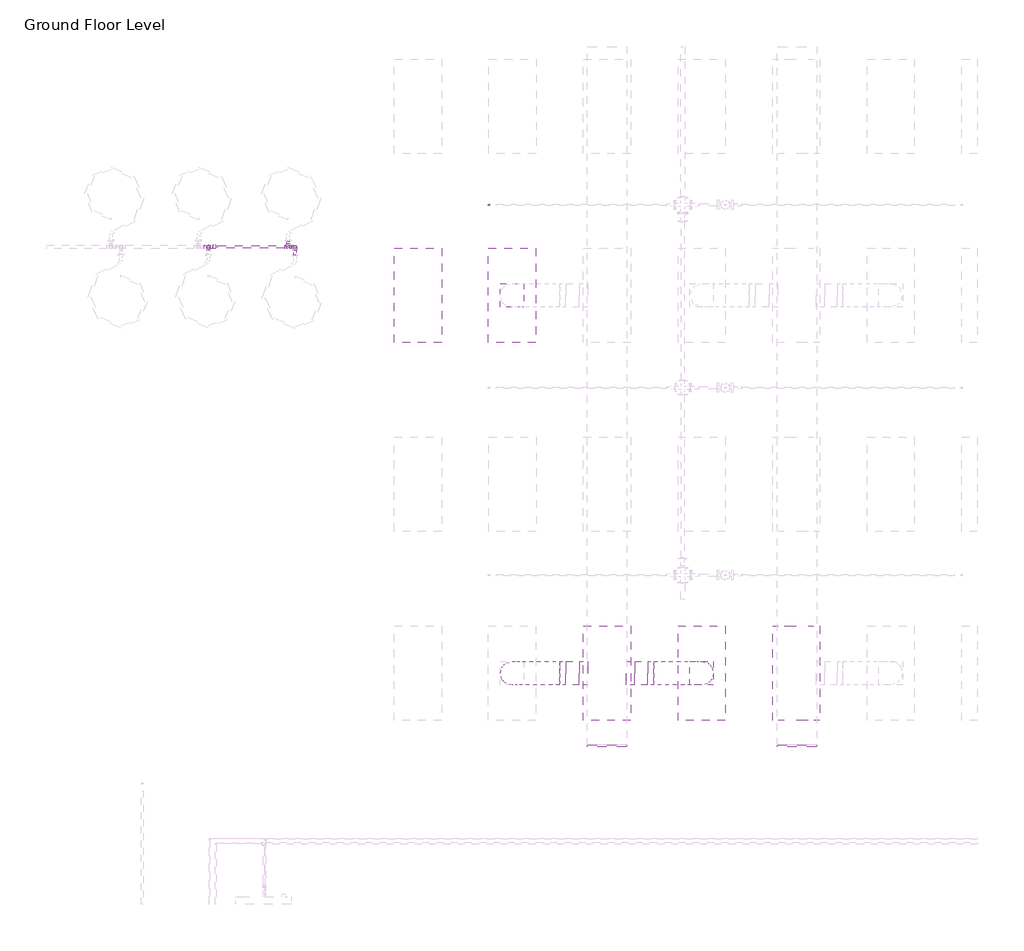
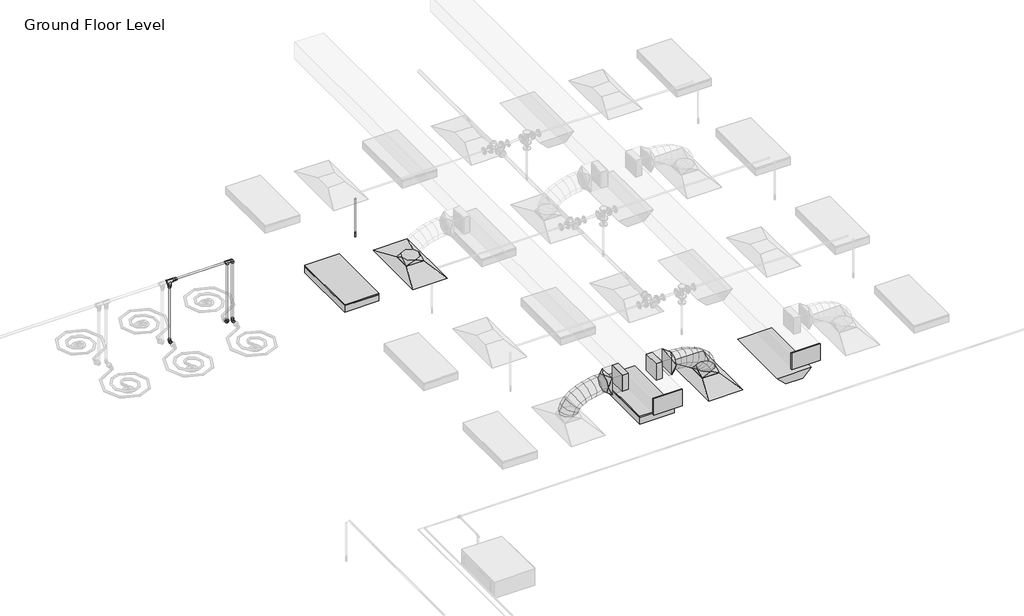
# One storey, part 44 of 74: 8 duct fittings, 8 pipe fittings, 8 pipe segments, 4 duct segments, 3 light fixtures, 2 air terminals, 1 fire suppression terminal.
"""IFC4 building model written with IfcOpenShell, lengths in millimetres."""

from ifc_helpers import new_model, si_unit, point, frame, frame_2d, origin, place, context, project, spatial, polyline, circle_curve, ellipse_curve, trimmed, segment, composite_curve, outline, extrude, transform, mapped, element, save
from ifc_brep_helpers import plane_surface, cylinder_surface, advanced_brep
from components import m_return_diffuser_1200x600_1200_x_600_face_300_x_300_d1983ef6, m_rectangular_endcap_standard_72d4d00d, m_rectangular_takeoff_standard_cb0ccb98, m_rectangular_takeoff_standard_2be5eba1, m_rectangular_to_round_transition_angle_45_degree_641efff0, m_sprinkler_dry_pendent_hosted_15_mm_dry_pendent_9bda8e11, m_emergency_recessed_lighting_fixture_600x1200_277_5b10b25d, m_troffer_light_parabolic_rectangular1_0600x1200mm_4_lamp_86473d4a, standard_517a5a8d, standard_72b35c3b, standard_08ff6011, standard_d0d0b892

model = new_model("IFC4")

# Units and contexts
model_context = context("Model", 3, world=origin())
ifc_project = project(units=[si_unit("LENGTHUNIT", "METRE", prefix="MILLI")], contexts=[model_context])

# Site, building, storey
site = spatial("IfcSite", under=ifc_project)
building = spatial("IfcBuilding", under=site)
storey = spatial("IfcBuildingStorey", under=building, Name="Ground Floor Level", Elevation=900.0)

# Air terminals
placement = place(None, origin())
m_return_diffuser_1200x600_1200_x_600_face_300_x_300_shape = m_return_diffuser_1200x600_1200_x_600_face_300_x_300_d1983ef6(model_context)
element("IfcAirTerminal", 1, ObjectType="M_Supply Diffuser 1200x600 : 1200 x 600 Face 300 x 300 Connection", at=placement, inside=storey, context=model_context, shape_type="MappedRepresentation", body=[
    mapped(m_return_diffuser_1200x600_1200_x_600_face_300_x_300_shape, transform((-8142.6846929, 6435.2153534, 3650.0), x_axis=(0.0, 1.0, 0.0), y_axis=(-1.0, 0.0, 0.0), z_axis=(0.0, 0.0, 1.0))),
])
element("IfcAirTerminal", 2, ObjectType="M_Supply Diffuser 1200x600 : 1200 x 600 Face 300 x 300 Connection", at=placement, inside=storey, context=model_context, shape_type="MappedRepresentation", body=[
    mapped(m_return_diffuser_1200x600_1200_x_600_face_300_x_300_shape, transform((-5737.2327605, 1635.2153534, 3650.0), x_axis=(0.0, 1.0, 0.0), y_axis=(-1.0, 0.0, 0.0), z_axis=(0.0, 0.0, 1.0))),
])

# Duct fittings
m_rectangular_endcap_standard_shape = m_rectangular_endcap_standard_72d4d00d(model_context)
element("IfcDuctFitting", 3, ObjectType="M_Rectangular Endcap : Standard", at=placement, inside=storey, context=model_context, shape_type="MappedRepresentation", body=[
    mapped(m_rectangular_endcap_standard_shape, transform((-4528.6910789, 725.2312455, 4150.0403557), x_axis=(0.0, -0.999999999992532, 3.864729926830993e-06), y_axis=(1.0, 0.0, 0.0), z_axis=(0.0, 3.864729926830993e-06, 0.999999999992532))),
])
element("IfcDuctFitting", 4, ObjectType="M_Rectangular Endcap : Standard", at=placement, inside=storey, context=model_context, shape_type="MappedRepresentation", body=[
    mapped(m_rectangular_endcap_standard_shape, transform((-6939.6910789, 725.2153534, 4150.0), x_axis=(0.0, -1.0, 0.0), y_axis=(1.0, 0.0, 0.0), z_axis=(0.0, 0.0, 1.0))),
])
m_rectangular_takeoff_standard_shape = m_rectangular_takeoff_standard_cb0ccb98(model_context)
element("IfcDuctFitting", 5, ObjectType="M_Rectangular Takeoff : Standard", at=placement, inside=storey, context=model_context, shape_type="MappedRepresentation", body=[
    mapped(m_rectangular_takeoff_standard_shape, transform((-6689.6910789, 1635.2153534, 4150.0), x_axis=(1.0, 0.0, 0.0), y_axis=(0.0, -1.0, 0.0), z_axis=(0.0, 0.0, -1.0))),
])
m_rectangular_takeoff_standard_2_shape = m_rectangular_takeoff_standard_2be5eba1(model_context)
element("IfcDuctFitting", 6, ObjectType="M_Rectangular Takeoff : Standard", at=placement, inside=storey, context=model_context, shape_type="MappedRepresentation", body=[
    mapped(m_rectangular_takeoff_standard_2_shape, transform((-7189.6910789, 1635.2153534, 4150.0), x_axis=(-1.0, 0.0, 0.0), y_axis=(0.0, 1.0, 0.0), z_axis=(0.0, 0.0, -1.0))),
])
m_rectangular_to_round_transition_angle_45_degree_shape = m_rectangular_to_round_transition_angle_45_degree_641efff0(model_context)
element("IfcDuctFitting", 7, ObjectType="M_Rectangular to Round Transition - Angle : 45 Degree", at=placement, inside=storey, context=model_context, shape_type="MappedRepresentation", body=[
    mapped(m_rectangular_to_round_transition_angle_45_degree_shape, transform((-8142.6846929, 6435.2153534, 3751.6), x_axis=(0.0, 0.0, 1.0), y_axis=(-1.0, 0.0, 0.0), z_axis=(0.0, -1.0, 0.0))),
])
element("IfcDuctFitting", 8, ObjectType="M_Rectangular to Round Transition - Angle : 45 Degree", at=placement, inside=storey, context=model_context, shape_type="MappedRepresentation", body=[
    mapped(m_rectangular_to_round_transition_angle_45_degree_shape, transform((-7461.2487616, 1635.2153534, 4150.0), x_axis=(-1.0, 0.0, 0.0), y_axis=(0.0, -1.0, 0.0), z_axis=(0.0, 0.0, 1.0))),
])
element("IfcDuctFitting", 9, ObjectType="M_Rectangular to Round Transition - Angle : 45 Degree", at=placement, inside=storey, context=model_context, shape_type="MappedRepresentation", body=[
    mapped(m_rectangular_to_round_transition_angle_45_degree_shape, transform((-5737.2327605, 1635.2153534, 3751.6), x_axis=(0.0, 0.0, 1.0), y_axis=(-1.0, 0.0, 0.0), z_axis=(0.0, -1.0, 0.0))),
])
element("IfcDuctFitting", 10, ObjectType="M_Rectangular to Round Transition - Angle : 45 Degree", at=placement, inside=storey, context=model_context, shape_type="MappedRepresentation", body=[
    mapped(m_rectangular_to_round_transition_angle_45_degree_shape, transform((-6418.6686918, 1635.2153534, 4150.0), x_axis=(1.0, 0.0, 0.0), y_axis=(0.0, 1.0, 0.0), z_axis=(0.0, 0.0, 1.0))),
])

# Duct segments
element("IfcDuctSegment", 11, ObjectType="Flex - Round", at=placement, inside=storey, context=model_context, shape_type="AdvancedBrep", body=[
    advanced_brep(
    [(-7992.6846929, 1635.2153534, 3826.6), (-8142.6846929, 1485.2153534, 3826.6), (-8292.6846929, 1635.2153534, 3826.6), (-8142.6846929, 1785.2153534, 3826.6), (-7992.6846929, 1635.2153534, 3832.4838104), (-8142.6846929, 1485.2153534, 3857.3049615), (-8292.6846929, 1635.2153534, 3882.1261126), (-8142.6846929, 1785.2153534, 3857.3049615), (-7990.555208, 1635.2153534, 3838.7421096), (-8126.0232883, 1485.2153534, 3906.2708192), (-8261.4913687, 1635.2153534, 3973.7995287), (-8126.0232883, 1785.2153534, 3906.2708192), (-7968.5331802, 1635.2153534, 3871.1472855), (-8080.1452707, 1485.2153534, 3973.7798261), (-8191.7573612, 1635.2153534, 4076.4123668), (-8080.1452707, 1785.2153534, 3973.7798261), (-7928.5904556, 1635.2153534, 3903.4915826), (-8011.2099341, 1485.2153534, 4029.6013814), (-8093.8294126, 1635.2153534, 4155.7111802), (-8011.2099341, 1785.2153534, 4029.6013814), (-7865.6682729, 1635.2153534, 3936.1928758), (-7925.3765727, 1485.2153534, 4074.2098454), (-7985.0848725, 1635.2153534, 4212.226815), (-7925.3765727, 1785.2153534, 4074.2098454), (-7786.815881, 1635.2153534, 3963.8479616), (-7828.8044806, 1485.2153534, 4108.0795788), (-7870.7930803, 1635.2153534, 4252.311196), (-7828.8044806, 1785.2153534, 4108.0795788), (-7700.2438983, 1635.2153534, 3984.0509494), (-7727.652952, 1485.2153534, 4131.684942), (-7755.0620057, 1635.2153534, 4279.3189347), (-7727.652952, 1785.2153534, 4131.684942), (-7613.759715, 1635.2153534, 3996.0504424), (-7628.081281, 1485.2153534, 4145.5002956), (-7642.4028469, 1635.2153534, 4294.9501488), (-7628.081281, 1785.2153534, 4145.5002956), (-7539.5984134, 1635.2153534, 4000.0), (-7543.5898089, 1485.2153534, 4150.0), (-7547.5812043, 1635.2153534, 4300.0), (-7543.5898089, 1785.2153534, 4150.0), (-7536.2487616, 1635.2153534, 4000.0), (-7536.2487616, 1785.2153534, 4150.0), (-7536.2487616, 1635.2153534, 4300.0), (-7536.2487616, 1485.2153534, 4150.0)],
    [
        (0, 1, circle_curve(frame((-8142.6846929, 1635.2153534, 3826.6), z_axis=(0.0, 0.0, -1.0), x_axis=(1.0, 0.0, 0.0)), 150.0)),
        (1, 2, circle_curve(frame((-8142.6846929, 1635.2153534, 3826.6), z_axis=(0.0, 0.0, -1.0), x_axis=(1.0, 0.0, 0.0)), 150.0)),
        (2, 3, circle_curve(frame((-8142.6846929, 1635.2153534, 3826.6), z_axis=(0.0, 0.0, -1.0), x_axis=(1.0, 0.0, 0.0)), 150.0)),
        (3, 0, circle_curve(frame((-8142.6846929, 1635.2153534, 3826.6), z_axis=(0.0, 0.0, -1.0), x_axis=(1.0, 0.0, 0.0)), 150.0)),
        (0, 4),
        (4, 5, ellipse_curve(frame((-8142.6846929, 1635.2153534, 3857.3049615), z_axis=(-0.1632543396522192, 0.0, -0.9865840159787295), x_axis=(0.9865840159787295, 0.0, -0.16325433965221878)), 152.039763, 150.0)),
        (5, 1),
        (5, 6, ellipse_curve(frame((-8142.6846929, 1635.2153534, 3857.3049615), z_axis=(-0.1632543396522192, 0.0, -0.9865840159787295), x_axis=(0.9865840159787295, 0.0, -0.16325433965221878)), 152.039763, 150.0)),
        (6, 2),
        (6, 7, ellipse_curve(frame((-8142.6846929, 1635.2153534, 3857.3049615), z_axis=(-0.1632543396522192, 0.0, -0.9865840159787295), x_axis=(0.9865840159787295, 0.0, -0.16325433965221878)), 152.039763, 150.0)),
        (7, 3),
        (7, 4, ellipse_curve(frame((-8142.6846929, 1635.2153534, 3857.3049615), z_axis=(-0.1632543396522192, 0.0, -0.9865840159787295), x_axis=(0.9865840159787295, 0.0, -0.16325433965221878)), 152.039763, 150.0)),
        (4, 8),
        (8, 9, ellipse_curve(frame((-8126.0232883, 1635.2153534, 3906.2708192), z_axis=(-0.44612805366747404, 0.0, -0.8949691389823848), x_axis=(0.8949691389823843, 0.0, -0.44612805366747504)), 151.366203, 150.0)),
        (9, 5),
        (9, 10, ellipse_curve(frame((-8126.0232883, 1635.2153534, 3906.2708192), z_axis=(-0.44612805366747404, 0.0, -0.8949691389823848), x_axis=(0.8949691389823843, 0.0, -0.44612805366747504)), 151.366203, 150.0)),
        (10, 6),
        (10, 11, ellipse_curve(frame((-8126.0232883, 1635.2153534, 3906.2708192), z_axis=(-0.44612805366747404, 0.0, -0.8949691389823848), x_axis=(0.8949691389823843, 0.0, -0.44612805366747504)), 151.366203, 150.0)),
        (11, 7),
        (11, 8, ellipse_curve(frame((-8126.0232883, 1635.2153534, 3906.2708192), z_axis=(-0.44612805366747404, 0.0, -0.8949691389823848), x_axis=(0.8949691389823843, 0.0, -0.44612805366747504)), 151.366203, 150.0)),
        (8, 12),
        (12, 13, ellipse_curve(frame((-8080.1452707, 1635.2153534, 3973.7798261), z_axis=(-0.6768758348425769, 0.0, -0.7360972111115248), x_axis=(0.7360972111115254, 0.0, -0.6768758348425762)), 151.6268352, 150.0)),
        (13, 9),
        (13, 14, ellipse_curve(frame((-8080.1452707, 1635.2153534, 3973.7798261), z_axis=(-0.6768758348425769, 0.0, -0.7360972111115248), x_axis=(0.7360972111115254, 0.0, -0.6768758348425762)), 151.6268352, 150.0)),
        (14, 10),
        (14, 15, ellipse_curve(frame((-8080.1452707, 1635.2153534, 3973.7798261), z_axis=(-0.6768758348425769, 0.0, -0.7360972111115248), x_axis=(0.7360972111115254, 0.0, -0.6768758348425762)), 151.6268352, 150.0)),
        (15, 11),
        (15, 12, ellipse_curve(frame((-8080.1452707, 1635.2153534, 3973.7798261), z_axis=(-0.6768758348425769, 0.0, -0.7360972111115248), x_axis=(0.7360972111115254, 0.0, -0.6768758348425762)), 151.6268352, 150.0)),
        (12, 16),
        (16, 17, ellipse_curve(frame((-8011.2099341, 1635.2153534, 4029.6013814), z_axis=(-0.8364738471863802, 0.0, -0.5480068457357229), x_axis=(0.5480068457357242, 0.0, -0.8364738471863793)), 150.7635884, 150.0)),
        (17, 13),
        (17, 18, ellipse_curve(frame((-8011.2099341, 1635.2153534, 4029.6013814), z_axis=(-0.8364738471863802, 0.0, -0.5480068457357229), x_axis=(0.5480068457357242, 0.0, -0.8364738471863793)), 150.7635884, 150.0)),
        (18, 14),
        (18, 19, ellipse_curve(frame((-8011.2099341, 1635.2153534, 4029.6013814), z_axis=(-0.8364738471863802, 0.0, -0.5480068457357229), x_axis=(0.5480068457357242, 0.0, -0.8364738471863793)), 150.7635884, 150.0)),
        (19, 15),
        (19, 16, ellipse_curve(frame((-8011.2099341, 1635.2153534, 4029.6013814), z_axis=(-0.8364738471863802, 0.0, -0.5480068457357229), x_axis=(0.5480068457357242, 0.0, -0.8364738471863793)), 150.7635884, 150.0)),
        (16, 20),
        (20, 21, ellipse_curve(frame((-7925.3765727, 1635.2153534, 4074.2098454), z_axis=(-0.9177957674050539, 0.0, -0.39705280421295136), x_axis=(0.39705280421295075, 0.0, -0.9177957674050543)), 150.3787384, 150.0)),
        (21, 17),
        (21, 22, ellipse_curve(frame((-7925.3765727, 1635.2153534, 4074.2098454), z_axis=(-0.9177957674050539, 0.0, -0.39705280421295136), x_axis=(0.39705280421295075, 0.0, -0.9177957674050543)), 150.3787384, 150.0)),
        (22, 18),
        (22, 23, ellipse_curve(frame((-7925.3765727, 1635.2153534, 4074.2098454), z_axis=(-0.9177957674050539, 0.0, -0.39705280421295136), x_axis=(0.39705280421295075, 0.0, -0.9177957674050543)), 150.3787384, 150.0)),
        (23, 19),
        (23, 20, ellipse_curve(frame((-7925.3765727, 1635.2153534, 4074.2098454), z_axis=(-0.9177957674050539, 0.0, -0.39705280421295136), x_axis=(0.39705280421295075, 0.0, -0.9177957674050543)), 150.3787384, 150.0)),
        (20, 24),
        (24, 25, ellipse_curve(frame((-7828.8044806, 1635.2153534, 4108.0795788), z_axis=(-0.9601411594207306, 0.0, -0.2795155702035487), x_axis=(0.27951557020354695, 0.0, -0.9601411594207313)), 150.2191795, 150.0)),
        (25, 21),
        (25, 26, ellipse_curve(frame((-7828.8044806, 1635.2153534, 4108.0795788), z_axis=(-0.9601411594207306, 0.0, -0.2795155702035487), x_axis=(0.27951557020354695, 0.0, -0.9601411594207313)), 150.2191795, 150.0)),
        (26, 22),
        (26, 27, ellipse_curve(frame((-7828.8044806, 1635.2153534, 4108.0795788), z_axis=(-0.9601411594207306, 0.0, -0.2795155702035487), x_axis=(0.27951557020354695, 0.0, -0.9601411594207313)), 150.2191795, 150.0)),
        (27, 23),
        (27, 24, ellipse_curve(frame((-7828.8044806, 1635.2153534, 4108.0795788), z_axis=(-0.9601411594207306, 0.0, -0.2795155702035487), x_axis=(0.27951557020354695, 0.0, -0.9601411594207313)), 150.2191795, 150.0)),
        (24, 28),
        (28, 29, ellipse_curve(frame((-7727.652952, 1635.2153534, 4131.684942), z_axis=(-0.9831991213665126, 0.0, -0.1825362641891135), x_axis=(0.1825362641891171, 0.0, -0.9831991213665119)), 150.1567581, 150.0)),
        (29, 25),
        (29, 30, ellipse_curve(frame((-7727.652952, 1635.2153534, 4131.684942), z_axis=(-0.9831991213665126, 0.0, -0.1825362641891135), x_axis=(0.1825362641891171, 0.0, -0.9831991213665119)), 150.1567581, 150.0)),
        (30, 26),
        (30, 31, ellipse_curve(frame((-7727.652952, 1635.2153534, 4131.684942), z_axis=(-0.9831991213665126, 0.0, -0.1825362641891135), x_axis=(0.1825362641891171, 0.0, -0.9831991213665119)), 150.1567581, 150.0)),
        (31, 27),
        (31, 28, ellipse_curve(frame((-7727.652952, 1635.2153534, 4131.684942), z_axis=(-0.9831991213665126, 0.0, -0.1825362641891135), x_axis=(0.1825362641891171, 0.0, -0.9831991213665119)), 150.1567581, 150.0)),
        (28, 32),
        (32, 33, ellipse_curve(frame((-7628.081281, 1635.2153534, 4145.5002956), z_axis=(-0.9954398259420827, 0.0, -0.09539157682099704), x_axis=(0.09539157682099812, 0.0, -0.9954398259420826)), 150.1344926, 150.0)),
        (33, 29),
        (33, 34, ellipse_curve(frame((-7628.081281, 1635.2153534, 4145.5002956), z_axis=(-0.9954398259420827, 0.0, -0.09539157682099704), x_axis=(0.09539157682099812, 0.0, -0.9954398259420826)), 150.1344926, 150.0)),
        (34, 30),
        (34, 35, ellipse_curve(frame((-7628.081281, 1635.2153534, 4145.5002956), z_axis=(-0.9954398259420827, 0.0, -0.09539157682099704), x_axis=(0.09539157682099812, 0.0, -0.9954398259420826)), 150.1344926, 150.0)),
        (35, 31),
        (35, 32, ellipse_curve(frame((-7628.081281, 1635.2153534, 4145.5002956), z_axis=(-0.9954398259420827, 0.0, -0.09539157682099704), x_axis=(0.09539157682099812, 0.0, -0.9954398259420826)), 150.1344926, 150.0)),
        (32, 36),
        (36, 37, ellipse_curve(frame((-7543.5898089, 1635.2153534, 4150.0), z_axis=(-0.9996461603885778, 0.0, -0.026599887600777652), x_axis=(0.026599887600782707, 0.0, -0.9996461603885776)), 150.0530947, 150.0)),
        (37, 33),
        (37, 38, ellipse_curve(frame((-7543.5898089, 1635.2153534, 4150.0), z_axis=(-0.9996461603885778, 0.0, -0.026599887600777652), x_axis=(0.026599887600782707, 0.0, -0.9996461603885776)), 150.0530947, 150.0)),
        (38, 34),
        (38, 39, ellipse_curve(frame((-7543.5898089, 1635.2153534, 4150.0), z_axis=(-0.9996461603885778, 0.0, -0.026599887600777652), x_axis=(0.026599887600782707, 0.0, -0.9996461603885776)), 150.0530947, 150.0)),
        (39, 35),
        (39, 36, ellipse_curve(frame((-7543.5898089, 1635.2153534, 4150.0), z_axis=(-0.9996461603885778, 0.0, -0.026599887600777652), x_axis=(0.026599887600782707, 0.0, -0.9996461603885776)), 150.0530947, 150.0)),
        (40, 41, circle_curve(frame((-7536.2487616, 1635.2153534, 4150.0), z_axis=(1.0, 0.0, 0.0), x_axis=(0.0, 0.0, -1.0)), 150.0)),
        (41, 42, circle_curve(frame((-7536.2487616, 1635.2153534, 4150.0), z_axis=(1.0, 0.0, 0.0), x_axis=(0.0, 0.0, -1.0)), 150.0)),
        (42, 43, circle_curve(frame((-7536.2487616, 1635.2153534, 4150.0), z_axis=(1.0, 0.0, 0.0), x_axis=(0.0, 0.0, -1.0)), 150.0)),
        (43, 40, circle_curve(frame((-7536.2487616, 1635.2153534, 4150.0), z_axis=(1.0, 0.0, 0.0), x_axis=(0.0, 0.0, -1.0)), 150.0)),
        (36, 40),
        (43, 37),
        (42, 38),
        (41, 39),
    ],
    [
        plane_surface(frame((-8142.6846929, 1485.2153534, 3826.6), z_axis=(0.0, 0.0, -1.0), x_axis=(1.0, 0.0, 0.0))),
        cylinder_surface(frame((-8142.6846929, 1635.2153534, 3826.6), z_axis=(0.0, 0.0, -1.0), x_axis=(1.0, 0.0, 0.0)), 150.0),
        cylinder_surface(frame((-8142.6846929, 1635.2153534, 3857.3049615), z_axis=(-0.32212824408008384, 0.0, -0.9466960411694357), x_axis=(0.9466960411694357, 0.0, -0.32212824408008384)), 150.0),
        cylinder_surface(frame((-8126.0232883, 1635.2153534, 3906.2708192), z_axis=(-0.5620745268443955, 0.0, -0.8270865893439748), x_axis=(0.8270865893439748, 0.0, -0.5620745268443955)), 150.0),
        cylinder_surface(frame((-8080.1452707, 1635.2153534, 3973.7798261), z_axis=(-0.777152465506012, 0.0, -0.6293123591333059), x_axis=(0.6293123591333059, 0.0, -0.777152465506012)), 150.0),
        cylinder_surface(frame((-8011.2099341, 1635.2153534, 4029.6013814), z_axis=(-0.887322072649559, 0.0, -0.4611502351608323), x_axis=(0.4611502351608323, 0.0, -0.887322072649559)), 150.0),
        cylinder_surface(frame((-7925.3765727, 1635.2153534, 4074.2098454), z_axis=(-0.9436464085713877, 0.0, -0.3309553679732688), x_axis=(0.3309553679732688, 0.0, -0.9436464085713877)), 150.0),
        cylinder_surface(frame((-7828.8044806, 1635.2153534, 4108.0795788), z_axis=(-0.9738340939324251, 0.0, -0.22726010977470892), x_axis=(0.22726010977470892, 0.0, -0.9738340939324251)), 150.0),
        cylinder_surface(frame((-7727.652952, 1635.2153534, 4131.684942), z_axis=(-0.9905113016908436, 0.0, -0.137431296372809), x_axis=(0.137431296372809, 0.0, -0.9905113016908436)), 150.0),
        cylinder_surface(frame((-7628.081281, 1635.2153534, 4145.5002956), z_axis=(-0.998584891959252, 0.0, -0.05318095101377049), x_axis=(0.05318095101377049, 0.0, -0.998584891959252)), 150.0),
        plane_surface(frame((-7536.2487616, 1635.2153534, 4000.0), z_axis=(1.0, 0.0, 0.0), x_axis=(0.0, 1.0, 0.0))),
        cylinder_surface(frame((-7543.5898089, 1635.2153534, 4150.0), z_axis=(-1.0, 0.0, 0.0), x_axis=(0.0, 0.0, -1.0)), 150.0),
    ],
    [
        (0, [[1, 2, 3, 4]]),
        (1, [[-1, 5, 6, 7]]),
        (1, [[-2, -7, 8, 9]]),
        (1, [[-3, -9, 10, 11]]),
        (1, [[-4, -11, 12, -5]]),
        (2, [[-6, 13, 14, 15]]),
        (2, [[-8, -15, 16, 17]]),
        (2, [[-10, -17, 18, 19]]),
        (2, [[-12, -19, 20, -13]]),
        (3, [[-14, 21, 22, 23]]),
        (3, [[-16, -23, 24, 25]]),
        (3, [[-18, -25, 26, 27]]),
        (3, [[-20, -27, 28, -21]]),
        (4, [[-22, 29, 30, 31]]),
        (4, [[-24, -31, 32, 33]]),
        (4, [[-26, -33, 34, 35]]),
        (4, [[-28, -35, 36, -29]]),
        (5, [[-30, 37, 38, 39]]),
        (5, [[-32, -39, 40, 41]]),
        (5, [[-34, -41, 42, 43]]),
        (5, [[-36, -43, 44, -37]]),
        (6, [[-38, 45, 46, 47]]),
        (6, [[-40, -47, 48, 49]]),
        (6, [[-42, -49, 50, 51]]),
        (6, [[-44, -51, 52, -45]]),
        (7, [[-46, 53, 54, 55]]),
        (7, [[-48, -55, 56, 57]]),
        (7, [[-50, -57, 58, 59]]),
        (7, [[-52, -59, 60, -53]]),
        (8, [[-54, 61, 62, 63]]),
        (8, [[-56, -63, 64, 65]]),
        (8, [[-58, -65, 66, 67]]),
        (8, [[-60, -67, 68, -61]]),
        (9, [[-62, 69, 70, 71]]),
        (9, [[-64, -71, 72, 73]]),
        (9, [[-66, -73, 74, 75]]),
        (9, [[-68, -75, 76, -69]]),
        (10, [[77, 78, 79, 80]]),
        (11, [[-70, 81, -80, 82]]),
        (11, [[-72, -82, -79, 83]]),
        (11, [[-74, -83, -78, 84]]),
        (11, [[-76, -84, -77, -81]]),
    ],
),
])
element("IfcDuctSegment", 12, ObjectType="Flex - Round", at=placement, inside=storey, context=model_context, shape_type="AdvancedBrep", body=[
    advanced_brep(
    [(-5587.2327605, 1635.2153534, 3826.6), (-5737.2327605, 1485.2153534, 3826.6), (-5887.2327605, 1635.2153534, 3826.6), (-5737.2327605, 1785.2153534, 3826.6), (-5587.2327605, 1635.2153534, 3882.1261126), (-5737.2327605, 1485.2153534, 3857.3049615), (-5887.2327605, 1635.2153534, 3832.4838104), (-5737.2327605, 1785.2153534, 3857.3049615), (-5618.4260847, 1635.2153534, 3973.7995287), (-5753.8941651, 1485.2153534, 3906.2708192), (-5889.3622454, 1635.2153534, 3838.7421096), (-5753.8941651, 1785.2153534, 3906.2708192), (-5688.1600922, 1635.2153534, 4076.4123668), (-5799.7721827, 1485.2153534, 3973.7798261), (-5911.3842733, 1635.2153534, 3871.1472855), (-5799.7721827, 1785.2153534, 3973.7798261), (-5786.0880408, 1635.2153534, 4155.7111802), (-5868.7075193, 1485.2153534, 4029.6013814), (-5951.3269979, 1635.2153534, 3903.4915826), (-5868.7075193, 1785.2153534, 4029.6013814), (-5894.832581, 1635.2153534, 4212.226815), (-5954.5408807, 1485.2153534, 4074.2098454), (-6014.2491805, 1635.2153534, 3936.1928758), (-5954.5408807, 1785.2153534, 4074.2098454), (-6009.1243732, 1635.2153534, 4252.311196), (-6051.1129728, 1485.2153534, 4108.0795788), (-6093.1015724, 1635.2153534, 3963.8479616), (-6051.1129728, 1785.2153534, 4108.0795788), (-6124.8554478, 1635.2153534, 4279.3189347), (-6152.2645014, 1485.2153534, 4131.684942), (-6179.6735551, 1635.2153534, 3984.0509494), (-6152.2645014, 1785.2153534, 4131.684942), (-6237.5146065, 1635.2153534, 4294.9501488), (-6251.8361725, 1485.2153534, 4145.5002956), (-6266.1577385, 1635.2153534, 3996.0504424), (-6251.8361725, 1785.2153534, 4145.5002956), (-6332.3362491, 1635.2153534, 4300.0), (-6336.3276445, 1485.2153534, 4150.0), (-6340.31904, 1635.2153534, 4000.0), (-6336.3276445, 1785.2153534, 4150.0), (-6343.6686918, 1635.2153534, 4300.0), (-6343.6686918, 1785.2153534, 4150.0), (-6343.6686918, 1635.2153534, 4000.0), (-6343.6686918, 1485.2153534, 4150.0)],
    [
        (0, 1, circle_curve(frame((-5737.2327605, 1635.2153534, 3826.6), z_axis=(0.0, 0.0, -1.0), x_axis=(1.0, 0.0, 0.0)), 150.0)),
        (1, 2, circle_curve(frame((-5737.2327605, 1635.2153534, 3826.6), z_axis=(0.0, 0.0, -1.0), x_axis=(1.0, 0.0, 0.0)), 150.0)),
        (2, 3, circle_curve(frame((-5737.2327605, 1635.2153534, 3826.6), z_axis=(0.0, 0.0, -1.0), x_axis=(1.0, 0.0, 0.0)), 150.0)),
        (3, 0, circle_curve(frame((-5737.2327605, 1635.2153534, 3826.6), z_axis=(0.0, 0.0, -1.0), x_axis=(1.0, 0.0, 0.0)), 150.0)),
        (0, 4),
        (4, 5, ellipse_curve(frame((-5737.2327605, 1635.2153534, 3857.3049615), z_axis=(0.1632543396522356, 0.0, -0.9865840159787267), x_axis=(-0.9865840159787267, 0.0, -0.16325433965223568)), 152.039763, 150.0)),
        (5, 1),
        (5, 6, ellipse_curve(frame((-5737.2327605, 1635.2153534, 3857.3049615), z_axis=(0.1632543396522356, 0.0, -0.9865840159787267), x_axis=(-0.9865840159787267, 0.0, -0.16325433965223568)), 152.039763, 150.0)),
        (6, 2),
        (6, 7, ellipse_curve(frame((-5737.2327605, 1635.2153534, 3857.3049615), z_axis=(0.1632543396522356, 0.0, -0.9865840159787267), x_axis=(-0.9865840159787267, 0.0, -0.16325433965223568)), 152.039763, 150.0)),
        (7, 3),
        (7, 4, ellipse_curve(frame((-5737.2327605, 1635.2153534, 3857.3049615), z_axis=(0.1632543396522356, 0.0, -0.9865840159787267), x_axis=(-0.9865840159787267, 0.0, -0.16325433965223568)), 152.039763, 150.0)),
        (4, 8),
        (8, 9, ellipse_curve(frame((-5753.8941651, 1635.2153534, 3906.2708192), z_axis=(0.4461280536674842, 0.0, -0.8949691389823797), x_axis=(-0.8949691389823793, 0.0, -0.4461280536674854)), 151.366203, 150.0)),
        (9, 5),
        (9, 10, ellipse_curve(frame((-5753.8941651, 1635.2153534, 3906.2708192), z_axis=(0.4461280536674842, 0.0, -0.8949691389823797), x_axis=(-0.8949691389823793, 0.0, -0.4461280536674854)), 151.366203, 150.0)),
        (10, 6),
        (10, 11, ellipse_curve(frame((-5753.8941651, 1635.2153534, 3906.2708192), z_axis=(0.4461280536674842, 0.0, -0.8949691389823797), x_axis=(-0.8949691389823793, 0.0, -0.4461280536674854)), 151.366203, 150.0)),
        (11, 7),
        (11, 8, ellipse_curve(frame((-5753.8941651, 1635.2153534, 3906.2708192), z_axis=(0.4461280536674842, 0.0, -0.8949691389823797), x_axis=(-0.8949691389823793, 0.0, -0.4461280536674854)), 151.366203, 150.0)),
        (8, 12),
        (12, 13, ellipse_curve(frame((-5799.7721827, 1635.2153534, 3973.7798261), z_axis=(0.676875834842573, 0.0, -0.7360972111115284), x_axis=(-0.7360972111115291, 0.0, -0.6768758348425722)), 151.6268352, 150.0)),
        (13, 9),
        (13, 14, ellipse_curve(frame((-5799.7721827, 1635.2153534, 3973.7798261), z_axis=(0.676875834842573, 0.0, -0.7360972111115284), x_axis=(-0.7360972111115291, 0.0, -0.6768758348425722)), 151.6268352, 150.0)),
        (14, 10),
        (14, 15, ellipse_curve(frame((-5799.7721827, 1635.2153534, 3973.7798261), z_axis=(0.676875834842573, 0.0, -0.7360972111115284), x_axis=(-0.7360972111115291, 0.0, -0.6768758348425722)), 151.6268352, 150.0)),
        (15, 11),
        (15, 12, ellipse_curve(frame((-5799.7721827, 1635.2153534, 3973.7798261), z_axis=(0.676875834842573, 0.0, -0.7360972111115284), x_axis=(-0.7360972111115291, 0.0, -0.6768758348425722)), 151.6268352, 150.0)),
        (12, 16),
        (16, 17, ellipse_curve(frame((-5868.7075193, 1635.2153534, 4029.6013814), z_axis=(0.8364738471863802, 0.0, -0.5480068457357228), x_axis=(-0.5480068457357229, 0.0, -0.8364738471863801)), 150.7635884, 150.0)),
        (17, 13),
        (17, 18, ellipse_curve(frame((-5868.7075193, 1635.2153534, 4029.6013814), z_axis=(0.8364738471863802, 0.0, -0.5480068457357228), x_axis=(-0.5480068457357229, 0.0, -0.8364738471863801)), 150.7635884, 150.0)),
        (18, 14),
        (18, 19, ellipse_curve(frame((-5868.7075193, 1635.2153534, 4029.6013814), z_axis=(0.8364738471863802, 0.0, -0.5480068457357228), x_axis=(-0.5480068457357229, 0.0, -0.8364738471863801)), 150.7635884, 150.0)),
        (19, 15),
        (19, 16, ellipse_curve(frame((-5868.7075193, 1635.2153534, 4029.6013814), z_axis=(0.8364738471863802, 0.0, -0.5480068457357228), x_axis=(-0.5480068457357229, 0.0, -0.8364738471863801)), 150.7635884, 150.0)),
        (16, 20),
        (20, 21, ellipse_curve(frame((-5954.5408807, 1635.2153534, 4074.2098454), z_axis=(0.917795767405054, 0.0, -0.3970528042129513), x_axis=(-0.3970528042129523, 0.0, -0.9177957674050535)), 150.3787384, 150.0)),
        (21, 17),
        (21, 22, ellipse_curve(frame((-5954.5408807, 1635.2153534, 4074.2098454), z_axis=(0.917795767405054, 0.0, -0.3970528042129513), x_axis=(-0.3970528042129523, 0.0, -0.9177957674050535)), 150.3787384, 150.0)),
        (22, 18),
        (22, 23, ellipse_curve(frame((-5954.5408807, 1635.2153534, 4074.2098454), z_axis=(0.917795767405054, 0.0, -0.3970528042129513), x_axis=(-0.3970528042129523, 0.0, -0.9177957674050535)), 150.3787384, 150.0)),
        (23, 19),
        (23, 20, ellipse_curve(frame((-5954.5408807, 1635.2153534, 4074.2098454), z_axis=(0.917795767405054, 0.0, -0.3970528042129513), x_axis=(-0.3970528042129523, 0.0, -0.9177957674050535)), 150.3787384, 150.0)),
        (20, 24),
        (24, 25, ellipse_curve(frame((-6051.1129728, 1635.2153534, 4108.0795788), z_axis=(0.9601411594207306, 0.0, -0.2795155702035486), x_axis=(-0.27951557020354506, 0.0, -0.9601411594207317)), 150.2191795, 150.0)),
        (25, 21),
        (25, 26, ellipse_curve(frame((-6051.1129728, 1635.2153534, 4108.0795788), z_axis=(0.9601411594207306, 0.0, -0.2795155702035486), x_axis=(-0.27951557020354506, 0.0, -0.9601411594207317)), 150.2191795, 150.0)),
        (26, 22),
        (26, 27, ellipse_curve(frame((-6051.1129728, 1635.2153534, 4108.0795788), z_axis=(0.9601411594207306, 0.0, -0.2795155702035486), x_axis=(-0.27951557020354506, 0.0, -0.9601411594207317)), 150.2191795, 150.0)),
        (27, 23),
        (27, 24, ellipse_curve(frame((-6051.1129728, 1635.2153534, 4108.0795788), z_axis=(0.9601411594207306, 0.0, -0.2795155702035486), x_axis=(-0.27951557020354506, 0.0, -0.9601411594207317)), 150.2191795, 150.0)),
        (24, 28),
        (28, 29, ellipse_curve(frame((-6152.2645014, 1635.2153534, 4131.684942), z_axis=(0.9831991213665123, 0.0, -0.1825362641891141), x_axis=(-0.18253626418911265, 0.0, -0.9831991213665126)), 150.1567581, 150.0)),
        (29, 25),
        (29, 30, ellipse_curve(frame((-6152.2645014, 1635.2153534, 4131.684942), z_axis=(0.9831991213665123, 0.0, -0.1825362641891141), x_axis=(-0.18253626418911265, 0.0, -0.9831991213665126)), 150.1567581, 150.0)),
        (30, 26),
        (30, 31, ellipse_curve(frame((-6152.2645014, 1635.2153534, 4131.684942), z_axis=(0.9831991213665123, 0.0, -0.1825362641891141), x_axis=(-0.18253626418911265, 0.0, -0.9831991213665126)), 150.1567581, 150.0)),
        (31, 27),
        (31, 28, ellipse_curve(frame((-6152.2645014, 1635.2153534, 4131.684942), z_axis=(0.9831991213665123, 0.0, -0.1825362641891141), x_axis=(-0.18253626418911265, 0.0, -0.9831991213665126)), 150.1567581, 150.0)),
        (28, 32),
        (32, 33, ellipse_curve(frame((-6251.8361725, 1635.2153534, 4145.5002956), z_axis=(0.9954398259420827, 0.0, -0.09539157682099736), x_axis=(-0.09539157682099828, 0.0, -0.9954398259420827)), 150.1344926, 150.0)),
        (33, 29),
        (33, 34, ellipse_curve(frame((-6251.8361725, 1635.2153534, 4145.5002956), z_axis=(0.9954398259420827, 0.0, -0.09539157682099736), x_axis=(-0.09539157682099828, 0.0, -0.9954398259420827)), 150.1344926, 150.0)),
        (34, 30),
        (34, 35, ellipse_curve(frame((-6251.8361725, 1635.2153534, 4145.5002956), z_axis=(0.9954398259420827, 0.0, -0.09539157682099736), x_axis=(-0.09539157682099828, 0.0, -0.9954398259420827)), 150.1344926, 150.0)),
        (35, 31),
        (35, 32, ellipse_curve(frame((-6251.8361725, 1635.2153534, 4145.5002956), z_axis=(0.9954398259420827, 0.0, -0.09539157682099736), x_axis=(-0.09539157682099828, 0.0, -0.9954398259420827)), 150.1344926, 150.0)),
        (32, 36),
        (36, 37, ellipse_curve(frame((-6336.3276445, 1635.2153534, 4150.0), z_axis=(0.9996461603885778, 0.0, -0.026599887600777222), x_axis=(-0.026599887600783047, 0.0, -0.9996461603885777)), 150.0530947, 150.0)),
        (37, 33),
        (37, 38, ellipse_curve(frame((-6336.3276445, 1635.2153534, 4150.0), z_axis=(0.9996461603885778, 0.0, -0.026599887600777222), x_axis=(-0.026599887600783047, 0.0, -0.9996461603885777)), 150.0530947, 150.0)),
        (38, 34),
        (38, 39, ellipse_curve(frame((-6336.3276445, 1635.2153534, 4150.0), z_axis=(0.9996461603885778, 0.0, -0.026599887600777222), x_axis=(-0.026599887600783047, 0.0, -0.9996461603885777)), 150.0530947, 150.0)),
        (39, 35),
        (39, 36, ellipse_curve(frame((-6336.3276445, 1635.2153534, 4150.0), z_axis=(0.9996461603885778, 0.0, -0.026599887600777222), x_axis=(-0.026599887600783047, 0.0, -0.9996461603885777)), 150.0530947, 150.0)),
        (40, 41, circle_curve(frame((-6343.6686918, 1635.2153534, 4150.0), z_axis=(-1.0, 0.0, 0.0), x_axis=(0.0, 0.0, 1.0)), 150.0)),
        (41, 42, circle_curve(frame((-6343.6686918, 1635.2153534, 4150.0), z_axis=(-1.0, 0.0, 0.0), x_axis=(0.0, 0.0, 1.0)), 150.0)),
        (42, 43, circle_curve(frame((-6343.6686918, 1635.2153534, 4150.0), z_axis=(-1.0, 0.0, 0.0), x_axis=(0.0, 0.0, 1.0)), 150.0)),
        (43, 40, circle_curve(frame((-6343.6686918, 1635.2153534, 4150.0), z_axis=(-1.0, 0.0, 0.0), x_axis=(0.0, 0.0, 1.0)), 150.0)),
        (36, 40),
        (43, 37),
        (42, 38),
        (41, 39),
    ],
    [
        plane_surface(frame((-5737.2327605, 1485.2153534, 3826.6), z_axis=(0.0, 0.0, -1.0), x_axis=(1.0, 0.0, 0.0))),
        cylinder_surface(frame((-5737.2327605, 1635.2153534, 3826.6), z_axis=(0.0, 0.0, -1.0), x_axis=(1.0, 0.0, 0.0)), 150.0),
        cylinder_surface(frame((-5737.2327605, 1635.2153534, 3857.3049615), z_axis=(0.32212824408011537, 0.0, -0.946696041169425), x_axis=(0.946696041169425, 0.0, 0.32212824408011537)), 150.0),
        cylinder_surface(frame((-5753.8941651, 1635.2153534, 3906.2708192), z_axis=(0.5620745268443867, 0.0, -0.8270865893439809), x_axis=(0.8270865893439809, 0.0, 0.5620745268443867)), 150.0),
        cylinder_surface(frame((-5799.7721827, 1635.2153534, 3973.7798261), z_axis=(0.777152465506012, 0.0, -0.6293123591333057), x_axis=(0.6293123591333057, 0.0, 0.777152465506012)), 150.0),
        cylinder_surface(frame((-5868.7075193, 1635.2153534, 4029.6013814), z_axis=(0.887322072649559, 0.0, -0.4611502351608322), x_axis=(0.4611502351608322, 0.0, 0.887322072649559)), 150.0),
        cylinder_surface(frame((-5954.5408807, 1635.2153534, 4074.2098454), z_axis=(0.9436464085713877, 0.0, -0.3309553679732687), x_axis=(0.3309553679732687, 0.0, 0.9436464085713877)), 150.0),
        cylinder_surface(frame((-6051.1129728, 1635.2153534, 4108.0795788), z_axis=(0.9738340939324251, 0.0, -0.2272601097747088), x_axis=(0.2272601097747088, 0.0, 0.9738340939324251)), 150.0),
        cylinder_surface(frame((-6152.2645014, 1635.2153534, 4131.684942), z_axis=(0.9905113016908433, 0.0, -0.1374312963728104), x_axis=(0.1374312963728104, 0.0, 0.9905113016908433)), 150.0),
        cylinder_surface(frame((-6251.8361725, 1635.2153534, 4145.5002956), z_axis=(0.998584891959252, 0.0, -0.05318095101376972), x_axis=(0.05318095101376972, 0.0, 0.998584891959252)), 150.0),
        plane_surface(frame((-6343.6686918, 1635.2153534, 4000.0), z_axis=(-1.0, 0.0, 0.0), x_axis=(0.0, -1.0, 0.0))),
        cylinder_surface(frame((-6336.3276445, 1635.2153534, 4150.0), z_axis=(1.0, 0.0, 0.0), x_axis=(0.0, 0.0, 1.0)), 150.0),
    ],
    [
        (0, [[1, 2, 3, 4]]),
        (1, [[-1, 5, 6, 7]]),
        (1, [[-2, -7, 8, 9]]),
        (1, [[-3, -9, 10, 11]]),
        (1, [[-4, -11, 12, -5]]),
        (2, [[-6, 13, 14, 15]]),
        (2, [[-8, -15, 16, 17]]),
        (2, [[-10, -17, 18, 19]]),
        (2, [[-12, -19, 20, -13]]),
        (3, [[-14, 21, 22, 23]]),
        (3, [[-16, -23, 24, 25]]),
        (3, [[-18, -25, 26, 27]]),
        (3, [[-20, -27, 28, -21]]),
        (4, [[-22, 29, 30, 31]]),
        (4, [[-24, -31, 32, 33]]),
        (4, [[-26, -33, 34, 35]]),
        (4, [[-28, -35, 36, -29]]),
        (5, [[-30, 37, 38, 39]]),
        (5, [[-32, -39, 40, 41]]),
        (5, [[-34, -41, 42, 43]]),
        (5, [[-36, -43, 44, -37]]),
        (6, [[-38, 45, 46, 47]]),
        (6, [[-40, -47, 48, 49]]),
        (6, [[-42, -49, 50, 51]]),
        (6, [[-44, -51, 52, -45]]),
        (7, [[-46, 53, 54, 55]]),
        (7, [[-48, -55, 56, 57]]),
        (7, [[-50, -57, 58, 59]]),
        (7, [[-52, -59, 60, -53]]),
        (8, [[-54, 61, 62, 63]]),
        (8, [[-56, -63, 64, 65]]),
        (8, [[-58, -65, 66, 67]]),
        (8, [[-60, -67, 68, -61]]),
        (9, [[-62, 69, 70, 71]]),
        (9, [[-64, -71, 72, 73]]),
        (9, [[-66, -73, 74, 75]]),
        (9, [[-68, -75, 76, -69]]),
        (10, [[77, 78, 79, 80]]),
        (11, [[-70, 81, -80, 82]]),
        (11, [[-72, -82, -79, 83]]),
        (11, [[-74, -83, -78, 84]]),
        (11, [[-76, -84, -77, -81]]),
    ],
),
])
element("IfcDuctSegment", 13, ObjectType="Radius Elbows / Taps", at=placement, inside=storey, context=model_context, shape_type="SweptSolid", body=[
    extrude(outline(polyline([(-7291.2910789, 1785.2153534), (-7291.2910789, 1485.2153534), (-7461.2487616, 1485.2153534), (-7461.2487616, 1785.2153534), (-7291.2910789, 1785.2153534)])), frame((0.0, 0.0, 4000.0), z_axis=(0.0, 0.0, 1.0), x_axis=(1.0, 0.0, 0.0)), (0.0, 0.0, 1.0), 300.0),
])
element("IfcDuctSegment", 14, ObjectType="Radius Elbows / Taps", at=placement, inside=storey, context=model_context, shape_type="SweptSolid", body=[
    extrude(outline(polyline([(-6588.0910789, 1485.2153534), (-6588.0910789, 1785.2153534), (-6418.6686918, 1785.2153534), (-6418.6686918, 1485.2153534), (-6588.0910789, 1485.2153534)])), frame((0.0, 0.0, 4000.0), z_axis=(0.0, 0.0, 1.0), x_axis=(1.0, 0.0, 0.0)), (0.0, 0.0, 1.0), 300.0),
])

# Fire suppression terminal
m_sprinkler_dry_pendent_hosted_15_mm_dry_pendent_shape = m_sprinkler_dry_pendent_hosted_15_mm_dry_pendent_9bda8e11(model_context)
element("IfcFireSuppressionTerminal", 15, ObjectType="M_Sprinkler - Dry - Pendent - Hosted : 15 mm Dry Pendent", at=placement, inside=storey, context=model_context, shape_type="MappedRepresentation", body=[
    mapped(m_sprinkler_dry_pendent_hosted_15_mm_dry_pendent_shape, transform((-8437.2327605, 7582.7040742, 3650.0), x_axis=(1.0, 0.0, 0.0), y_axis=(0.0, -1.0, 0.0), z_axis=(0.0, 0.0, -1.0))),
])

# Light fixtures
m_emergency_recessed_lighting_fixture_600x1200_277_shape = m_emergency_recessed_lighting_fixture_600x1200_277_5b10b25d(model_context)
element("IfcLightFixture", 16, ObjectType="M_Emergency Recessed Lighting Fixture : 600x1200 - 277", at=placement, inside=storey, context=model_context, shape_type="MappedRepresentation", body=[
    mapped(m_emergency_recessed_lighting_fixture_600x1200_277_shape, transform((-4837.2327605, 1035.2153534, 3650.0), x_axis=(0.0, 1.0, 0.0), y_axis=(-1.0, 0.0, 0.0), z_axis=(0.0, 0.0, 1.0))),
])
m_troffer_light_parabolic_rectangular1_0600x1200mm_4_lamp_shape = m_troffer_light_parabolic_rectangular1_0600x1200mm_4_lamp_86473d4a(model_context)
element("IfcLightFixture", 17, ObjectType="M_Troffer Light - Parabolic Rectangular1 : 0600x1200mm(4 Lamp) - 277V 2", at=placement, inside=storey, context=model_context, shape_type="MappedRepresentation", body=[
    mapped(m_troffer_light_parabolic_rectangular1_0600x1200mm_4_lamp_shape, transform((-9396.6986926, 6453.918855, 3650.0), x_axis=(0.0, 1.0, 0.0), y_axis=(-1.0, 0.0, 0.0), z_axis=(0.0, 0.0, 1.0))),
])
element("IfcLightFixture", 18, ObjectType="M_Troffer Light - Parabolic Rectangular1 : 0600x1200mm(4 Lamp) - 277V 2", at=placement, inside=storey, context=model_context, shape_type="MappedRepresentation", body=[
    mapped(m_troffer_light_parabolic_rectangular1_0600x1200mm_4_lamp_shape, transform((-6996.6986926, 1653.918855, 3650.0), x_axis=(0.0, 1.0, 0.0), y_axis=(-1.0, 0.0, 0.0), z_axis=(0.0, 0.0, 1.0))),
])

# Pipe fittings
standard_shape = standard_517a5a8d(model_context)
element("IfcPipeFitting", 19, ObjectType="M_Elbow - CPVC - Sch 40 : Standard", at=placement, inside=storey, context=model_context, shape_type="MappedRepresentation", body=[
    mapped(standard_shape, transform((-11997.2327605, 7049.9865561, 3200.0), x_axis=(0.0, 0.0, -1.0), y_axis=(0.0, -1.0, 0.0), z_axis=(-1.0, 0.0, 0.0))),
])
element("IfcPipeFitting", 20, ObjectType="M_Elbow - CPVC - Sch 40 : Standard", at=placement, inside=storey, context=model_context, shape_type="MappedRepresentation", body=[
    mapped(standard_shape, transform((-10987.2327605, 7049.9865561, 3200.0), x_axis=(0.0, 0.0, -1.0), y_axis=(0.0, 1.0, 0.0), z_axis=(1.0, 0.0, 0.0))),
])
element("IfcPipeFitting", 21, ObjectType="M_Elbow - CPVC - Sch 40 : Standard", at=placement, inside=storey, context=model_context, shape_type="MappedRepresentation", body=[
    mapped(standard_shape, transform((-10897.2327605, 7049.9865561, 3200.0), x_axis=(0.0, 0.0, -1.0), y_axis=(0.0, -1.0, 0.0), z_axis=(-1.0, 0.0, 0.0))),
])
element("IfcPipeFitting", 22, ObjectType="M_Elbow - CPVC - Sch 40 : Standard", at=placement, inside=storey, context=model_context, shape_type="MappedRepresentation", body=[
    mapped(standard_shape, transform((-10897.2327605, 7049.9865561, 4315.0), x_axis=(1.0, 0.0, 0.0), y_axis=(0.0, 0.0, -1.0), z_axis=(0.0, 1.0, 0.0))),
])
standard_2_shape = standard_72b35c3b(model_context)
element("IfcPipeFitting", 23, ObjectType="M_Tee - CPVC - Sch 40 : Standard", at=placement, inside=storey, context=model_context, shape_type="MappedRepresentation", body=[
    mapped(standard_2_shape, transform((-10987.2327605, 7049.9865561, 4315.0), x_axis=(-1.0, 0.0, 0.0), y_axis=(0.0, 0.0, 1.0), z_axis=(0.0, 1.0, 0.0))),
])
standard_3_shape = standard_08ff6011(model_context)
element("IfcPipeFitting", 24, ObjectType="M_Tee - CPVC - Sch 40 : Standard", at=placement, inside=storey, context=model_context, shape_type="MappedRepresentation", body=[
    mapped(standard_3_shape, transform((-11997.2327605, 7049.9865561, 4315.0), x_axis=(-1.0, 0.0, 0.0), y_axis=(0.0, 0.0, 1.0), z_axis=(0.0, 1.0, 0.0))),
])
standard_4_shape = standard_d0d0b892(model_context)
element("IfcPipeFitting", 25, ObjectType="M_Coupling Reducing - CPVC - Sch 40 : Standard", at=placement, inside=storey, context=model_context, shape_type="MappedRepresentation", body=[
    mapped(standard_4_shape, transform((-11997.2327605, 7049.9865561, 4261.025), x_axis=(0.0, 0.0, -1.0), y_axis=(1.0, 0.0, 0.0), z_axis=(0.0, -1.0, 0.0))),
])
element("IfcPipeFitting", 26, ObjectType="M_Coupling Reducing - CPVC - Sch 40 : Standard", at=placement, inside=storey, context=model_context, shape_type="MappedRepresentation", body=[
    mapped(standard_4_shape, transform((-11943.2577605, 7049.9865561, 4315.0), x_axis=(1.0, 0.0, 0.0), y_axis=(0.0, 1.0, 0.0), z_axis=(0.0, 0.0, 1.0))),
])

# Pipe segments
element("IfcPipeSegment", 27, ObjectType="CPVC", at=placement, inside=storey, context=model_context, shape_type="SweptSolid", body=[
    extrude(outline(composite_curve([segment(trimmed(circle_curve(frame_2d((-11997.2327605, 7049.9865561)), 16.7005), [point((-11980.5322605, 7049.9865561))], [point((-11997.2327605, 7033.2860561))], False, "CARTESIAN"), True, "CONTINUOUS"), segment(trimmed(circle_curve(frame_2d((-11997.2327605, 7049.9865561)), 16.7005), [point((-11997.2327605, 7033.2860561))], [point((-12013.9332605, 7049.9865561))], False, "CARTESIAN"), True, "CONTINUOUS"), segment(trimmed(circle_curve(frame_2d((-11997.2327605, 7049.9865561)), 16.7005), [point((-12013.9332605, 7049.9865561))], [point((-11997.2327605, 7066.6870561))], False, "CARTESIAN"), True, "CONTINUOUS"), segment(trimmed(circle_curve(frame_2d((-11997.2327605, 7049.9865561)), 16.7005), [point((-11997.2327605, 7066.6870561))], [point((-11980.5322605, 7049.9865561))], False, "CARTESIAN"), True, "CONTINUOUS")], self_intersect=False)), frame((0.0, 0.0, 3243.26255), z_axis=(0.0, 0.0, 1.0), x_axis=(1.0, 0.0, 0.0)), (0.0, 0.0, 1.0), 951.643575),
])
element("IfcPipeSegment", 28, ObjectType="CPVC", at=placement, inside=storey, context=model_context, shape_type="SweptSolid", body=[
    extrude(outline(composite_curve([segment(trimmed(circle_curve(frame_2d((3200.0, -10987.2327605)), 16.7005), [point((3200.0, -10970.5322605))], [point((3216.7005, -10987.2327605))], False, "CARTESIAN"), True, "CONTINUOUS"), segment(trimmed(circle_curve(frame_2d((3200.0, -10987.2327605)), 16.7005), [point((3216.7005, -10987.2327605))], [point((3200.0, -11003.9332605))], False, "CARTESIAN"), True, "CONTINUOUS"), segment(trimmed(circle_curve(frame_2d((3200.0, -10987.2327605)), 16.7005), [point((3200.0, -11003.9332605))], [point((3183.2995, -10987.2327605))], False, "CARTESIAN"), True, "CONTINUOUS"), segment(trimmed(circle_curve(frame_2d((3200.0, -10987.2327605)), 16.7005), [point((3183.2995, -10987.2327605))], [point((3200.0, -10970.5322605))], False, "CARTESIAN"), True, "CONTINUOUS")], self_intersect=False)), frame((0.0, 7093.2491061, 0.0), z_axis=(0.0, 1.0, 0.0), x_axis=(0.0, 0.0, 1.0)), (0.0, 0.0, 1.0), 30.346801),
])
element("IfcPipeSegment", 29, ObjectType="CPVC", at=placement, inside=storey, context=model_context, shape_type="SweptSolid", body=[
    extrude(outline(composite_curve([segment(trimmed(circle_curve(frame_2d((-10987.2327605, 7049.9865561)), 16.7005), [point((-10970.5322605, 7049.9865561))], [point((-10987.2327605, 7033.2860561))], False, "CARTESIAN"), True, "CONTINUOUS"), segment(trimmed(circle_curve(frame_2d((-10987.2327605, 7049.9865561)), 16.7005), [point((-10987.2327605, 7033.2860561))], [point((-11003.9332605, 7049.9865561))], False, "CARTESIAN"), True, "CONTINUOUS"), segment(trimmed(circle_curve(frame_2d((-10987.2327605, 7049.9865561)), 16.7005), [point((-11003.9332605, 7049.9865561))], [point((-10987.2327605, 7066.6870561))], False, "CARTESIAN"), True, "CONTINUOUS"), segment(trimmed(circle_curve(frame_2d((-10987.2327605, 7049.9865561)), 16.7005), [point((-10987.2327605, 7066.6870561))], [point((-10970.5322605, 7049.9865561))], False, "CARTESIAN"), True, "CONTINUOUS")], self_intersect=False)), frame((0.0, 0.0, 3243.26255), z_axis=(0.0, 0.0, 1.0), x_axis=(1.0, 0.0, 0.0)), (0.0, 0.0, 1.0), 1032.03725),
])
element("IfcPipeSegment", 30, ObjectType="CPVC", at=placement, inside=storey, context=model_context, shape_type="SweptSolid", body=[
    extrude(outline(composite_curve([segment(trimmed(circle_curve(frame_2d((7049.9865561, 4315.0)), 16.7005), [point((7033.2860561, 4315.0))], [point((7049.9865561, 4331.7005))], False, "CARTESIAN"), True, "CONTINUOUS"), segment(trimmed(circle_curve(frame_2d((7049.9865561, 4315.0)), 16.7005), [point((7049.9865561, 4331.7005))], [point((7066.6870561, 4315.0))], False, "CARTESIAN"), True, "CONTINUOUS"), segment(trimmed(circle_curve(frame_2d((7049.9865561, 4315.0)), 16.7005), [point((7066.6870561, 4315.0))], [point((7049.9865561, 4298.2995))], False, "CARTESIAN"), True, "CONTINUOUS"), segment(trimmed(circle_curve(frame_2d((7049.9865561, 4315.0)), 16.7005), [point((7049.9865561, 4298.2995))], [point((7033.2860561, 4315.0))], False, "CARTESIAN"), True, "CONTINUOUS")], self_intersect=False)), frame((-11877.1388855, 0.0, 0.0), z_axis=(1.0, 0.0, 0.0), x_axis=(0.0, 1.0, 0.0)), (0.0, 0.0, 1.0), 850.205925),
])
element("IfcPipeSegment", 31, ObjectType="CPVC", at=placement, inside=storey, context=model_context, shape_type="SweptSolid", body=[
    extrude(outline(composite_curve([segment(trimmed(circle_curve(frame_2d((3200.0, -10897.2327605)), 16.7005), [point((3200.0, -10913.9332605))], [point((3183.2995, -10897.2327605))], False, "CARTESIAN"), True, "CONTINUOUS"), segment(trimmed(circle_curve(frame_2d((3200.0, -10897.2327605)), 16.7005), [point((3183.2995, -10897.2327605))], [point((3200.0, -10880.5322605))], False, "CARTESIAN"), True, "CONTINUOUS"), segment(trimmed(circle_curve(frame_2d((3200.0, -10897.2327605)), 16.7005), [point((3200.0, -10880.5322605))], [point((3216.7005, -10897.2327605))], False, "CARTESIAN"), True, "CONTINUOUS"), segment(trimmed(circle_curve(frame_2d((3200.0, -10897.2327605)), 16.7005), [point((3216.7005, -10897.2327605))], [point((3200.0, -10913.9332605))], False, "CARTESIAN"), True, "CONTINUOUS")], self_intersect=False)), frame((0.0, 6946.8347997, 0.0), z_axis=(0.0, 1.0, 0.0), x_axis=(0.0, 0.0, 1.0)), (0.0, 0.0, 1.0), 59.8892065),
])
element("IfcPipeSegment", 32, ObjectType="CPVC", at=placement, inside=storey, context=model_context, shape_type="SweptSolid", body=[
    extrude(outline(composite_curve([segment(trimmed(circle_curve(frame_2d((-10897.2327605, 7049.9865561)), 16.7005), [point((-10880.5322605, 7049.9865561))], [point((-10897.2327605, 7033.2860561))], False, "CARTESIAN"), True, "CONTINUOUS"), segment(trimmed(circle_curve(frame_2d((-10897.2327605, 7049.9865561)), 16.7005), [point((-10897.2327605, 7033.2860561))], [point((-10913.9332605, 7049.9865561))], False, "CARTESIAN"), True, "CONTINUOUS"), segment(trimmed(circle_curve(frame_2d((-10897.2327605, 7049.9865561)), 16.7005), [point((-10913.9332605, 7049.9865561))], [point((-10897.2327605, 7066.6870561))], False, "CARTESIAN"), True, "CONTINUOUS"), segment(trimmed(circle_curve(frame_2d((-10897.2327605, 7049.9865561)), 16.7005), [point((-10897.2327605, 7066.6870561))], [point((-10880.5322605, 7049.9865561))], False, "CARTESIAN"), True, "CONTINUOUS")], self_intersect=False)), frame((0.0, 0.0, 3243.26255), z_axis=(0.0, 0.0, 1.0), x_axis=(1.0, 0.0, 0.0)), (0.0, 0.0, 1.0), 1028.4749),
])
element("IfcPipeSegment", 33, ObjectType="CPVC", at=placement, inside=storey, context=model_context, shape_type="SweptSolid", body=[
    extrude(outline(composite_curve([segment(trimmed(circle_curve(frame_2d((7049.9865561, 4315.0)), 16.7005), [point((7033.2860561, 4315.0))], [point((7049.9865561, 4331.7005))], False, "CARTESIAN"), True, "CONTINUOUS"), segment(trimmed(circle_curve(frame_2d((7049.9865561, 4315.0)), 16.7005), [point((7049.9865561, 4331.7005))], [point((7066.6870561, 4315.0))], False, "CARTESIAN"), True, "CONTINUOUS"), segment(trimmed(circle_curve(frame_2d((7049.9865561, 4315.0)), 16.7005), [point((7066.6870561, 4315.0))], [point((7049.9865561, 4298.2995))], False, "CARTESIAN"), True, "CONTINUOUS"), segment(trimmed(circle_curve(frame_2d((7049.9865561, 4315.0)), 16.7005), [point((7049.9865561, 4298.2995))], [point((7033.2860561, 4315.0))], False, "CARTESIAN"), True, "CONTINUOUS")], self_intersect=False)), frame((-10947.5325605, 0.0, 0.0), z_axis=(1.0, 0.0, 0.0), x_axis=(0.0, 1.0, 0.0)), (0.0, 0.0, 1.0), 7.03725),
])
element("IfcPipeSegment", 34, ObjectType="Steel flanged", at=placement, inside=storey, context=model_context, shape_type="SweptSolid", body=[
    extrude(outline(composite_curve([segment(trimmed(circle_curve(frame_2d((-8437.2327605, 7582.7040742)), 10.668), [point((-8447.9007605, 7582.7040742))], [point((-8437.2327605, 7593.3720742))], False, "CARTESIAN"), True, "CONTINUOUS"), segment(trimmed(circle_curve(frame_2d((-8437.2327605, 7582.7040742)), 10.668), [point((-8437.2327605, 7593.3720742))], [point((-8426.5647605, 7582.7040742))], False, "CARTESIAN"), True, "CONTINUOUS"), segment(trimmed(circle_curve(frame_2d((-8437.2327605, 7582.7040742)), 10.668), [point((-8426.5647605, 7582.7040742))], [point((-8437.2327605, 7572.0360742))], False, "CARTESIAN"), True, "CONTINUOUS"), segment(trimmed(circle_curve(frame_2d((-8437.2327605, 7582.7040742)), 10.668), [point((-8437.2327605, 7572.0360742))], [point((-8447.9007605, 7582.7040742))], False, "CARTESIAN"), True, "CONTINUOUS")], self_intersect=False)), frame((0.0, 0.0, 3650.0), z_axis=(0.0, 0.0, 1.0), x_axis=(1.0, 0.0, 0.0)), (0.0, 0.0, 1.0), 616.9914062),
])

save(model, "model.ifc")
